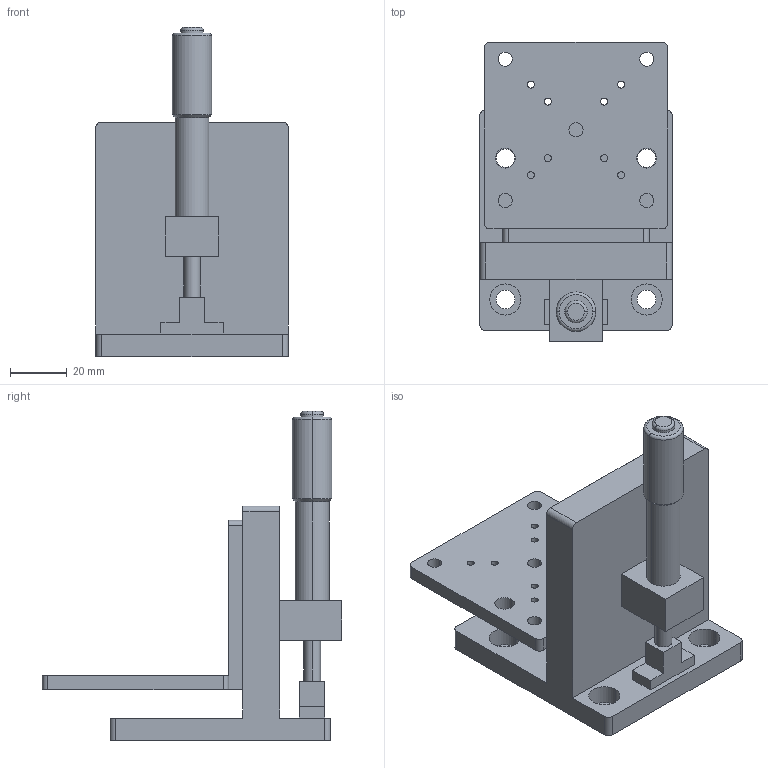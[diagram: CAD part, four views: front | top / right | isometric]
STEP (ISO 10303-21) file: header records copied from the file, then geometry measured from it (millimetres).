
FILE_DESCRIPTION (( 'STEP AP203' ), '1' );
FILE_NAME ('PT-SD25M.STEP', '2022-09-04T07:46:24', ( '' ), ( '' ), 'SwSTEP 2.0', 'SolidWorks 2020', '' );
FILE_SCHEMA (( 'CONFIG_CONTROL_DESIGN' ));
Length unit declared in the file: millimetre
Products named in the file (1): PT-SD25M
Bounding box: 68 x 106 x 116.5 mm (x, y, z)
Volume: 158042.3 mm3; surface area: 42141.3 mm2
Topology: 1 solids, 1 shells, 324 faces, 867 edges, 563 vertices
Faces by surface type: plane 148, cylinder 80, bspline 76, cone 16, torus 4
Entity records: 13246 total; most frequent: CARTESIAN_POINT 5433, ORIENTED_EDGE 1706, DIRECTION 1367, EDGE_CURVE 853, VERTEX_POINT 563, VECTOR 533, LINE 533, AXIS2_PLACEMENT_3D 417
